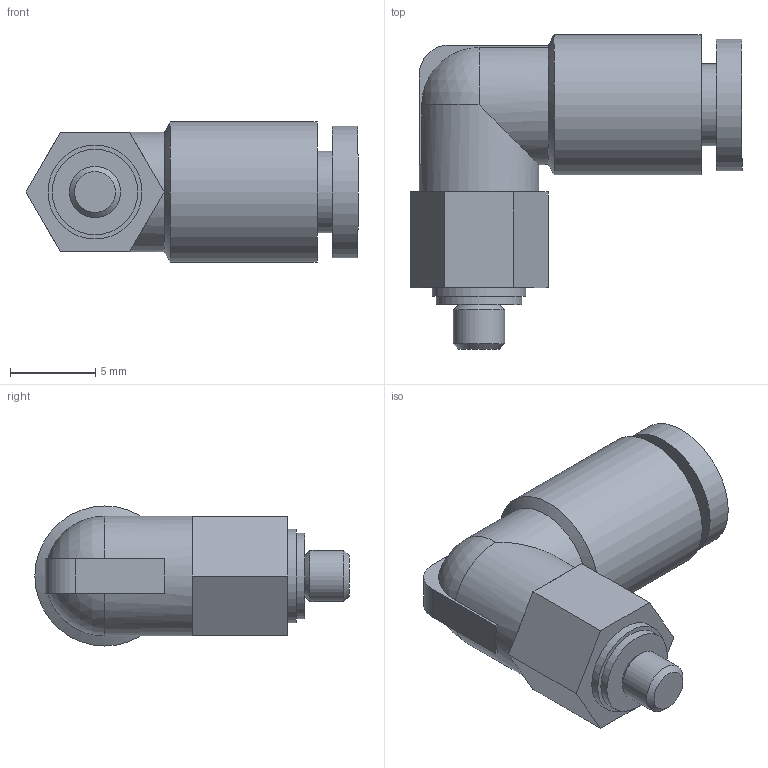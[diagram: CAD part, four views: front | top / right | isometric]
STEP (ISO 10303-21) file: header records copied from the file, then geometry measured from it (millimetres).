
FILE_DESCRIPTION(/* description */ ('STEP AP214'),/* implementation_level */ '2;1');
FILE_NAME(/* name */ 'KQ2L04-M3G',/* time_stamp */ '2023-03-09T07:27:22+01:00',/* author */ ('License CC BY-ND 4.0'),/* organization */ ('CADENAS'),/* preprocessor_version */ 'ST-DEVELOPER v19.3',/* originating_system */ 'PARTsolutions',/* authorisation */ ' ');
FILE_SCHEMA (('AUTOMOTIVE_DESIGN {1 0 10303 214 3 1 1}'));
Length unit declared in the file: millimetre
Products named in the file (1): KQ2L04-M3G
Bounding box: 19.44 x 18.4 x 8.2 mm (x, y, z)
Volume: 1011 mm3; surface area: 989.4 mm2
Topology: 1 solids, 1 shells, 41 faces, 87 edges, 54 vertices
Faces by surface type: plane 26, cylinder 10, cone 3, sphere 2
Full cylindrical faces by diameter (mm): 3 x1, 4 x1, 4.8 x1, 5 x1, 5.5 x1, 7 x1, 7.7 x1, 8.2 x1
Entity records: 1068 total; most frequent: DIRECTION 190, CARTESIAN_POINT 179, ORIENTED_EDGE 150, AXIS2_PLACEMENT_3D 76, EDGE_CURVE 75, EDGE_LOOP 58, FACE_BOUND 58, VERTEX_POINT 53
